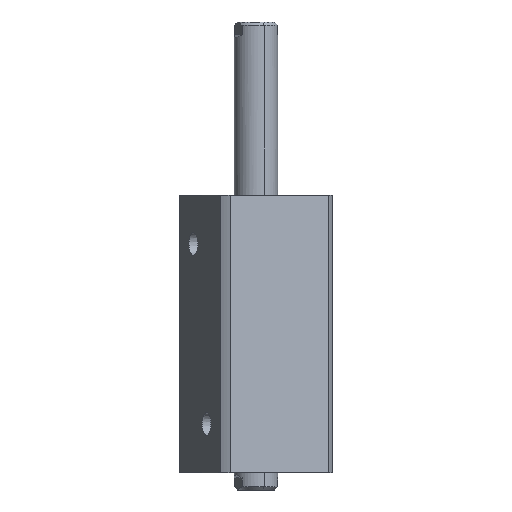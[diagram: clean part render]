
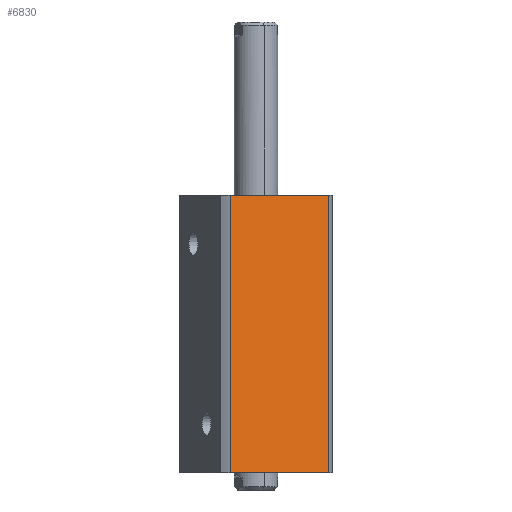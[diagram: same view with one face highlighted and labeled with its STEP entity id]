
A CAD part, front view. The second image highlights one B-rep face of the part: STEP entity #6830.
In plain terms, the highlighted planar face has unit normal (0.383, -0.924, 0) as drawn and (1, 0, 0) by its records, which use the part's own axes.
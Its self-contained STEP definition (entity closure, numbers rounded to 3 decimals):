
#202 = EDGE_CURVE ( 'NONE', #5405, #5301, #4296, .T. ) ;
#393 = CARTESIAN_POINT ( 'NONE',  ( 35., -30.615, 0. ) ) ;
#455 = EDGE_CURVE ( 'NONE', #5301, #2190, #8046, .T. ) ;
#1244 = CARTESIAN_POINT ( 'NONE',  ( 35., 35., 160. ) ) ;
#2149 = VECTOR ( 'NONE', #5650, 1000. ) ;
#2190 = VERTEX_POINT ( 'NONE', #9447 ) ;
#2280 = ORIENTED_EDGE ( 'NONE', *, *, #202, .F. ) ;
#2404 = DIRECTION ( 'NONE',  ( 0., 1., 0. ) ) ;
#2466 = ORIENTED_EDGE ( 'NONE', *, *, #8910, .F. ) ;
#3049 = EDGE_LOOP ( 'NONE', ( #2280, #7016, #2466, #3114 ) ) ;
#3114 = ORIENTED_EDGE ( 'NONE', *, *, #455, .F. ) ;
#3223 = CARTESIAN_POINT ( 'NONE',  ( 35., 35., 160. ) ) ;
#4024 = DIRECTION ( 'NONE',  ( -1., 0., 0. ) ) ;
#4236 = DIRECTION ( 'NONE',  ( 0., 0., -1. ) ) ;
#4296 = LINE ( 'NONE', #9804, #2149 ) ;
#4691 = VERTEX_POINT ( 'NONE', #5153 ) ;
#4720 = LINE ( 'NONE', #8776, #8989 ) ;
#5153 = CARTESIAN_POINT ( 'NONE',  ( 35., 30.615, 0. ) ) ;
#5164 = AXIS2_PLACEMENT_3D ( 'NONE', #3223, #4024, #9629 ) ;
#5255 = DIRECTION ( 'NONE',  ( 0., 1., 0. ) ) ;
#5301 = VERTEX_POINT ( 'NONE', #5947 ) ;
#5405 = VERTEX_POINT ( 'NONE', #393 ) ;
#5650 = DIRECTION ( 'NONE',  ( 0., 0., 1. ) ) ;
#5658 = LINE ( 'NONE', #5800, #7775 ) ;
#5797 = EDGE_CURVE ( 'NONE', #5405, #4691, #4720, .T. ) ;
#5800 = CARTESIAN_POINT ( 'NONE',  ( 35., 30.615, -140. ) ) ;
#5947 = CARTESIAN_POINT ( 'NONE',  ( 35., -30.615, 160. ) ) ;
#6830 = ADVANCED_FACE ( 'NONE', ( #7608 ), #8015, .F. ) ;
#7016 = ORIENTED_EDGE ( 'NONE', *, *, #5797, .T. ) ;
#7608 = FACE_OUTER_BOUND ( 'NONE', #3049, .T. ) ;
#7775 = VECTOR ( 'NONE', #4236, 1000. ) ;
#7804 = VECTOR ( 'NONE', #5255, 1000. ) ;
#8015 = PLANE ( 'NONE',  #5164 ) ;
#8046 = LINE ( 'NONE', #1244, #7804 ) ;
#8776 = CARTESIAN_POINT ( 'NONE',  ( 35., 35., 0. ) ) ;
#8910 = EDGE_CURVE ( 'NONE', #2190, #4691, #5658, .T. ) ;
#8989 = VECTOR ( 'NONE', #2404, 1000. ) ;
#9447 = CARTESIAN_POINT ( 'NONE',  ( 35., 30.615, 160. ) ) ;
#9629 = DIRECTION ( 'NONE',  ( 0., -1., 0. ) ) ;
#9804 = CARTESIAN_POINT ( 'NONE',  ( 35., -30.615, -140. ) ) ;
